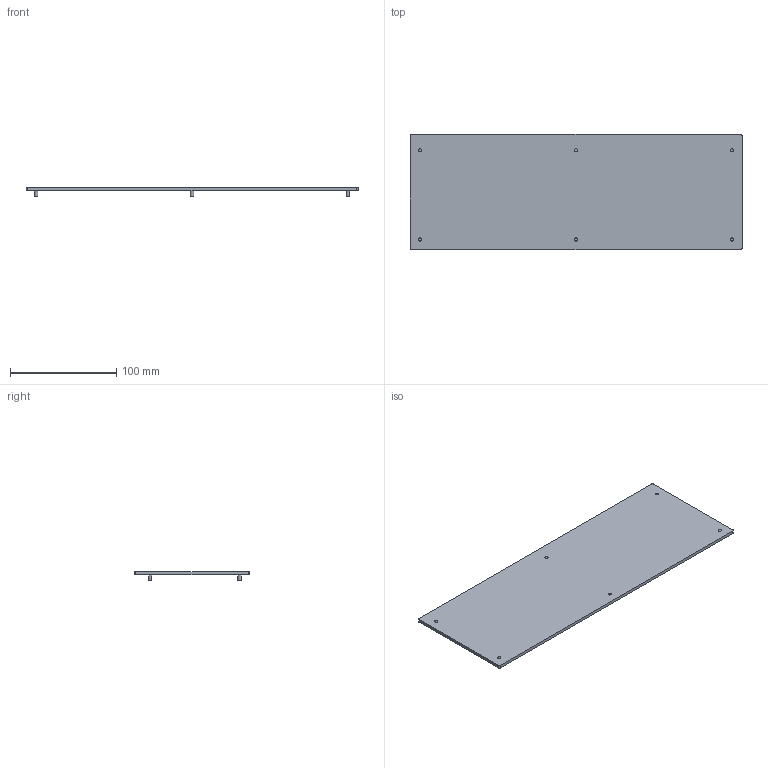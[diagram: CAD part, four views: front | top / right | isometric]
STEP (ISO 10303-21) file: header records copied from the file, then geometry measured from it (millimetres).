
FILE_DESCRIPTION(/* description */ (''),/* implementation_level */ '2;1');
FILE_NAME(/* name */ 'Z:\470_Messrechner\100_MR715\Abdeckung Einschub MR715.stp',/* time_stamp */ '2019-07-10T15:08:54+02:00',/* author */ ('PE'),/* organization */ (''),/* preprocessor_version */ 'ST-DEVELOPER v17',/* originating_system */ 'Autodesk Inventor 2018',/* authorisation */ '');
FILE_SCHEMA (('CONFIG_CONTROL_DESIGN'));
Length unit declared in the file: millimetre
Products named in the file (3): Abdeckung Einschub MR715; Abdeckung Einschub MR715_1; EP-Bolzen M3x8
Assembly tree (7 placements, depth 2):
  Abdeckung Einschub MR715
    Abdeckung Einschub MR715_1
    EP-Bolzen M3x8  x6
Bounding box: 312.6 x 108.5 x 8 mm (x, y, z)
Volume: 101957.6 mm3; surface area: 70971.2 mm2
Topology: 7 solids, 7 shells, 34 faces, 66 edges, 46 vertices
Faces by surface type: plane 18, cylinder 16
Full cylindrical faces by diameter (mm): 3 x12
Entity records: 809 total; most frequent: DIRECTION 139, CARTESIAN_POINT 117, ORIENTED_EDGE 102, AXIS2_PLACEMENT_3D 58, EDGE_CURVE 51, VERTEX_POINT 36, EDGE_LOOP 31, CIRCLE 28
